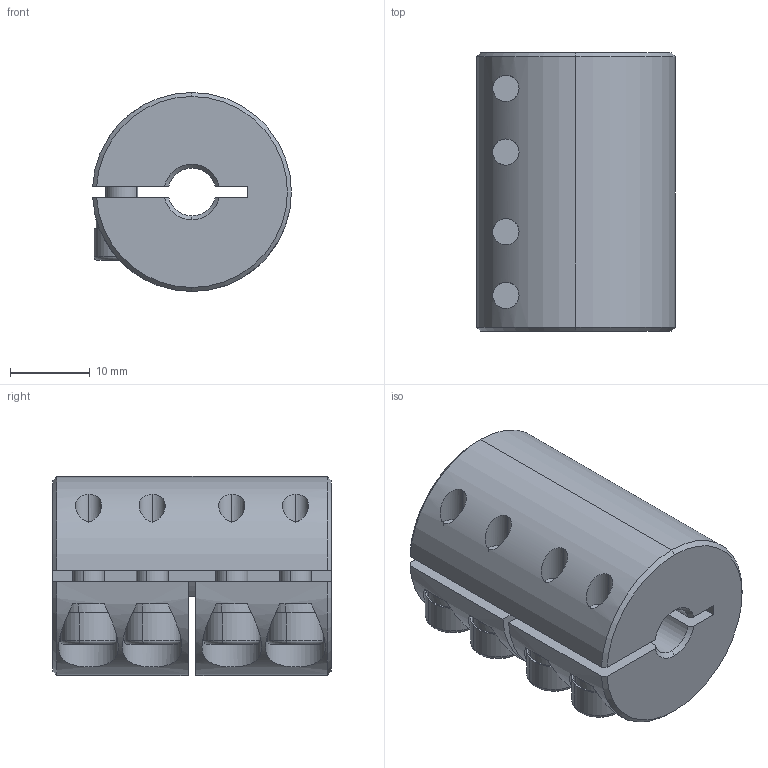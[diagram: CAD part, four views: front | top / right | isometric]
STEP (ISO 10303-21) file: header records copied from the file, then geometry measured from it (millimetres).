
FILE_DESCRIPTION (( 'STEP AP203' ), '1' );
FILE_NAME ('LL-B-D25L35-6-12.STEP', '2021-11-05T06:54:38', ( '' ), ( '' ), 'SwSTEP 2.0', 'SolidWorks 2018', '' );
FILE_SCHEMA (( 'CONFIG_CONTROL_DESIGN' ));
Length unit declared in the file: millimetre
Products named in the file (1): LL-B-D25L35-6-12
Bounding box: 24.98 x 35 x 25 mm (x, y, z)
Volume: 13598.5 mm3; surface area: 6910.1 mm2
Topology: 1 solids, 1 shells, 192 faces, 493 edges, 307 vertices
Faces by surface type: plane 92, cylinder 72, cone 20, torus 8
Entity records: 6313 total; most frequent: CARTESIAN_POINT 1497, DIRECTION 1042, ORIENTED_EDGE 970, EDGE_CURVE 485, AXIS2_PLACEMENT_3D 404, VERTEX_POINT 307, VECTOR 234, LINE 234
